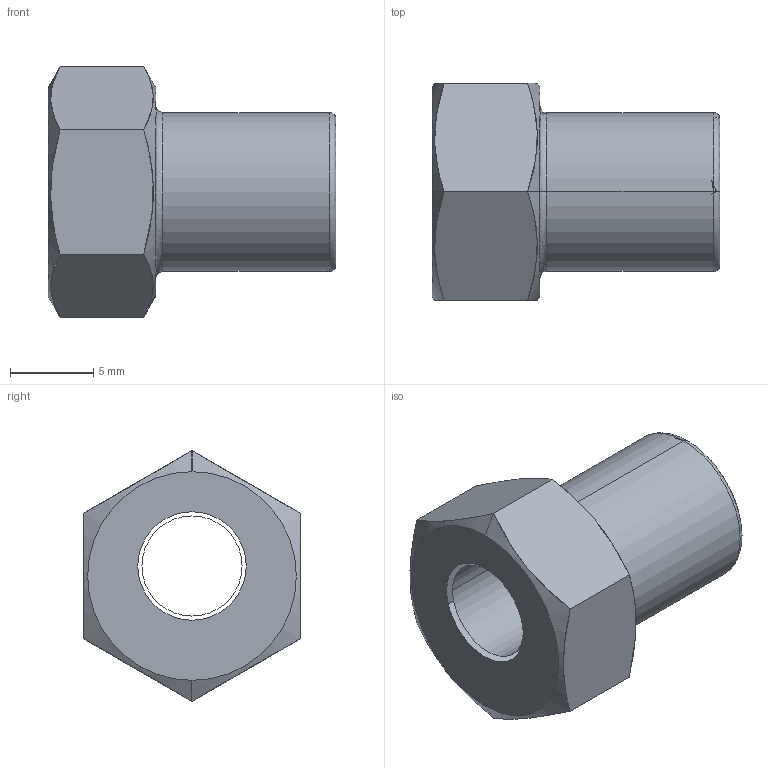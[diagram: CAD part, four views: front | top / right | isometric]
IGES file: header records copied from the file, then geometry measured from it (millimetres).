
Start section: 3D InterOp IGES (v. 2019 1.0.2), Spatial Corp. Copyright (c) 1999-2017.
Global section: file name: BX2SSM.igs; native system: Spatial Corp.; preprocessor: 3D InterOp GENERIC/IGES 3.0; author: Noname; organization: Noname; date: 20200930.105801; units: millimetre
Bounding box: 17.24 x 13 x 15.01 mm (x, y, z)
Surface area: 1205.5 mm2 (no closed solid volume)
Topology: 0 solids, 0 shells, 25 faces, 120 edges, 118 vertices
Faces by surface type: revolution 16, extrusion 9
